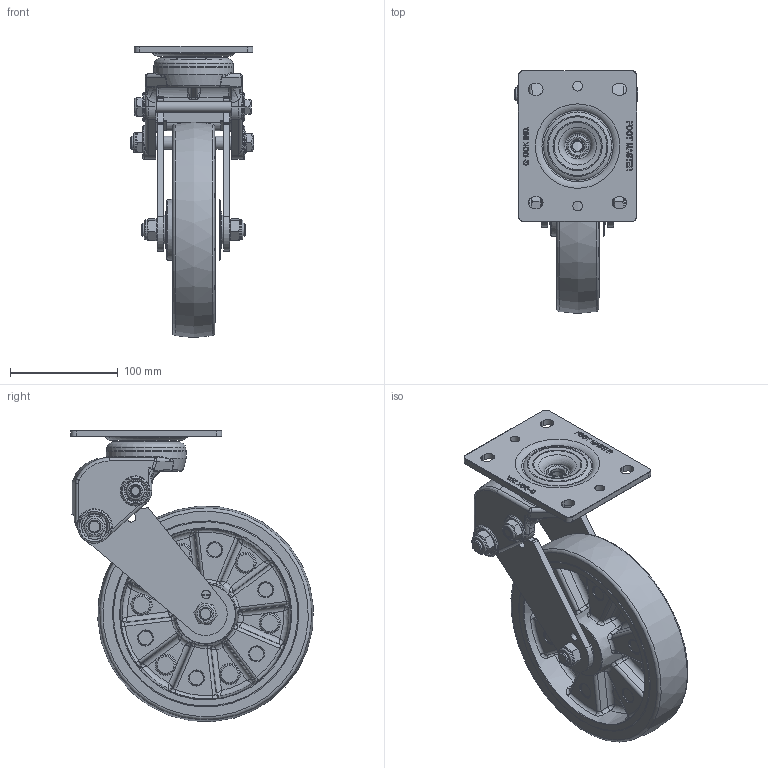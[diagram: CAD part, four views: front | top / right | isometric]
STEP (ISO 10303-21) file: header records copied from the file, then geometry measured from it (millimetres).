
FILE_DESCRIPTION(/* description */ (''),/* implementation_level */ '2;1');
FILE_NAME(/* name */ 'D:\★제품 렌더링\모델링파일\FULL 3D\GDS-200-SERIES\외부용\GDS-200-ASF-PEU-ASSY_Shrinkwrap_1.stp',/* time_stamp */ '2022-12-26T15:14:00+09:00',/* author */ ('장용하'),/* organization */ (''),/* preprocessor_version */ 'ST-DEVELOPER v18.1',/* originating_system */ 'Autodesk Inventor 2021',/* authorisation */ '');
FILE_SCHEMA (('AUTOMOTIVE_DESIGN { 1 0 10303 214 3 1 1 }'));
Products named in the file (1): GDS-200-ASF-PEU-ASSY_Shrinkwrap_1
Bounding box: 114.5 x 224.79 x 269.79 mm (x, y, z)
Volume: 1123352.4 mm3; surface area: 248942.7 mm2
Topology: 3 solids, 3 shells, 1168 faces, 3080 edges, 1930 vertices
Faces by surface type: plane 389, bspline 361, torus 171, cylinder 145, cone 98, sphere 4
Full cylindrical faces by diameter (mm): 8 x2, 8.2 x2, 9 x2, 9.3 x1, 10 x1, 10.7 x1, 12 x4, 12.2 x2, 13 x1, 18.5 x3, 18.6 x1, 18.8 x1, 20 x2, 24 x1, 25 x1, 26 x2, 27 x2, 35 x2, 62 x1, 74 x1
Entity records: 47726 total; most frequent: CARTESIAN_POINT 19760, ORIENTED_EDGE 6036, DIRECTION 4920, EDGE_CURVE 3018, AXIS2_PLACEMENT_3D 1962, VERTEX_POINT 1930, EDGE_LOOP 1274, STYLED_ITEM 1171
